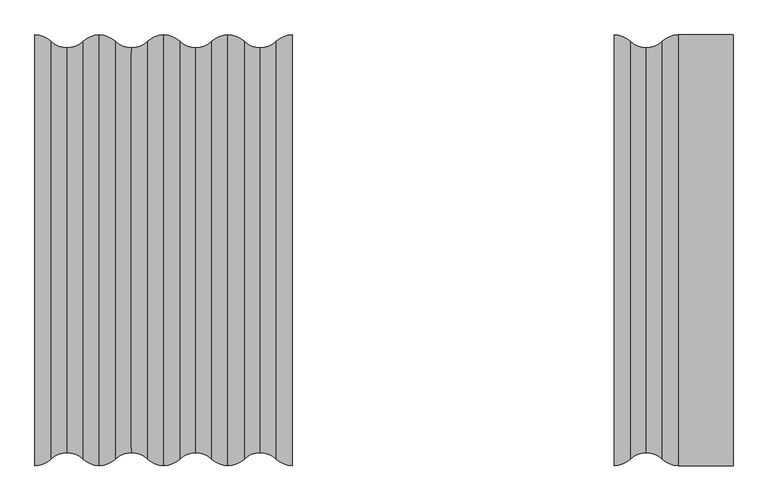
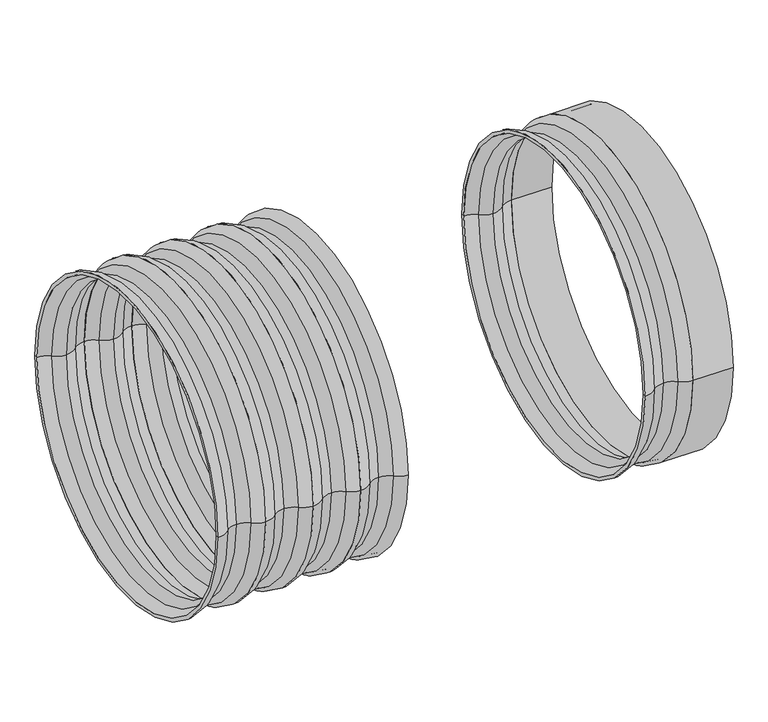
"""IFC4 building model written with IfcOpenShell, lengths in millimetres: pipe fitting geometry, Z_PIF_UN_Q-Bic_Plus_Shaft_Pipe_Wavin_(nested) : PP, RAL8012, ø600mm."""

from ifc_helpers import new_model, si_unit, point, frame, origin, place, context, project, spatial, polyline, circle_curve, ellipse_curve, trimmed, source, transform, mapped, element, save
from ifc_brep_helpers import plane_surface, cylinder_surface, revolved_surface, advanced_brep


def pipe_fitting_905b8aec(model_context):
    return source(origin(), model_context, "Body", "AdvancedBrep", [
        advanced_brep(
        [(300.0, -335.0, 0.0), (300.0, 335.0, 0.0), (325.0, 325.0, 0.0), (325.0, -325.0, 0.0), (300.0, -328.0, 0.0), (300.0, 328.0, 0.0), (325.0, -318.0, 0.0), (325.0, 318.0, 0.0), (350.0, -308.0, 0.0), (350.0, 308.0, 0.0), (375.0, -318.0, 0.0), (375.0, 318.0, 0.0), (400.0, -328.0, 0.0), (400.0, 328.0, 0.0), (400.0, -335.0, 0.0), (400.0, 335.0, 0.0), (375.0, -325.0, 0.0), (375.0, 325.0, 0.0), (350.0, -315.0, 0.0), (350.0, 315.0, 0.0)],
        [
            (0, 1, circle_curve(frame((300.0, 0.0, 0.0), z_axis=(1.0, 0.0, 0.0), x_axis=(0.0, 1.0, 0.0)), 335.0)),
            (1, 2, circle_curve(frame((300.0, 298.75, 0.0), z_axis=(0.0, 0.0, -1.0), x_axis=(1.0, 0.0, 0.0)), 36.25)),
            (2, 3, circle_curve(frame((325.0, 0.0, 0.0), z_axis=(-1.0, 0.0, 0.0), x_axis=(0.0, 1.0, 0.0)), 325.0)),
            (3, 0, circle_curve(frame((300.0, -298.75, 0.0), z_axis=(0.0, 0.0, -1.0), x_axis=(1.0, 0.0, 0.0)), 36.25)),
            (1, 0, circle_curve(frame((300.0, 0.0, 0.0), z_axis=(1.0, 0.0, 0.0), x_axis=(0.0, 1.0, 0.0)), 335.0)),
            (3, 2, circle_curve(frame((325.0, 0.0, 0.0), z_axis=(-1.0, 0.0, 0.0), x_axis=(0.0, 1.0, 0.0)), 325.0)),
            (4, 5, circle_curve(frame((300.0, 0.0, 0.0), z_axis=(1.0, 0.0, 0.0), x_axis=(0.0, 1.0, 0.0)), 328.0)),
            (5, 1),
            (0, 4),
            (5, 4, circle_curve(frame((300.0, 0.0, 0.0), z_axis=(1.0, 0.0, 0.0), x_axis=(0.0, 1.0, 0.0)), 328.0)),
            (6, 7, circle_curve(frame((325.0, 0.0, 0.0), z_axis=(1.0, 0.0, 0.0), x_axis=(0.0, 1.0, 0.0)), 318.0)),
            (7, 5, circle_curve(frame((300.0, 291.75, 0.0), z_axis=(0.0, 0.0, 1.0), x_axis=(1.0, 0.0, 0.0)), 36.25)),
            (4, 6, circle_curve(frame((300.0, -291.75, 0.0), z_axis=(0.0, 0.0, 1.0), x_axis=(1.0, 0.0, 0.0)), 36.25)),
            (7, 6, circle_curve(frame((325.0, 0.0, 0.0), z_axis=(1.0, 0.0, 0.0), x_axis=(0.0, 1.0, 0.0)), 318.0)),
            (8, 9, circle_curve(frame((350.0, 0.0, 0.0), z_axis=(1.0, 0.0, 0.0), x_axis=(0.0, 1.0, 0.0)), 308.0)),
            (9, 7, circle_curve(frame((350.0, 344.25, 0.0), z_axis=(0.0, 0.0, -1.0), x_axis=(1.0, 0.0, 0.0)), 36.25)),
            (6, 8, circle_curve(frame((350.0, -344.25, 0.0), z_axis=(0.0, 0.0, -1.0), x_axis=(1.0, 0.0, 0.0)), 36.25)),
            (9, 8, circle_curve(frame((350.0, 0.0, 0.0), z_axis=(1.0, 0.0, 0.0), x_axis=(0.0, 1.0, 0.0)), 308.0)),
            (10, 11, circle_curve(frame((375.0, 0.0, 0.0), z_axis=(1.0, 0.0, 0.0), x_axis=(0.0, 1.0, 0.0)), 318.0)),
            (11, 9, circle_curve(frame((350.0, 344.25, 0.0), z_axis=(0.0, 0.0, -1.0), x_axis=(1.0, 0.0, 0.0)), 36.25)),
            (8, 10, circle_curve(frame((350.0, -344.25, 0.0), z_axis=(0.0, 0.0, -1.0), x_axis=(1.0, 0.0, 0.0)), 36.25)),
            (11, 10, circle_curve(frame((375.0, 0.0, 0.0), z_axis=(1.0, 0.0, 0.0), x_axis=(0.0, 1.0, 0.0)), 318.0)),
            (12, 13, circle_curve(frame((400.0, 0.0, 0.0), z_axis=(1.0, 0.0, 0.0), x_axis=(0.0, 1.0, 0.0)), 328.0)),
            (13, 11, circle_curve(frame((400.0, 291.75, 0.0), z_axis=(0.0, 0.0, 1.0), x_axis=(1.0, 0.0, 0.0)), 36.25)),
            (10, 12, circle_curve(frame((400.0, -291.75, 0.0), z_axis=(0.0, 0.0, 1.0), x_axis=(1.0, 0.0, 0.0)), 36.25)),
            (13, 12, circle_curve(frame((400.0, 0.0, 0.0), z_axis=(1.0, 0.0, 0.0), x_axis=(0.0, 1.0, 0.0)), 328.0)),
            (14, 15, circle_curve(frame((400.0, 0.0, 0.0), z_axis=(1.0, 0.0, 0.0), x_axis=(0.0, 1.0, 0.0)), 335.0)),
            (15, 13),
            (12, 14),
            (15, 14, circle_curve(frame((400.0, 0.0, 0.0), z_axis=(1.0, 0.0, 0.0), x_axis=(0.0, 1.0, 0.0)), 335.0)),
            (16, 17, circle_curve(frame((375.0, 0.0, 0.0), z_axis=(1.0, 0.0, 0.0), x_axis=(0.0, 1.0, 0.0)), 325.0)),
            (17, 15, circle_curve(frame((400.0, 298.75, 0.0), z_axis=(0.0, 0.0, -1.0), x_axis=(1.0, 0.0, 0.0)), 36.25)),
            (14, 16, circle_curve(frame((400.0, -298.75, 0.0), z_axis=(0.0, 0.0, -1.0), x_axis=(1.0, 0.0, 0.0)), 36.25)),
            (17, 16, circle_curve(frame((375.0, 0.0, 0.0), z_axis=(1.0, 0.0, 0.0), x_axis=(0.0, 1.0, 0.0)), 325.0)),
            (18, 19, circle_curve(frame((350.0, 0.0, 0.0), z_axis=(1.0, 0.0, 0.0), x_axis=(0.0, 1.0, 0.0)), 315.0)),
            (19, 17, circle_curve(frame((350.0, 351.25, 0.0), z_axis=(0.0, 0.0, 1.0), x_axis=(1.0, 0.0, 0.0)), 36.25)),
            (16, 18, circle_curve(frame((350.0, -351.25, 0.0), z_axis=(0.0, 0.0, 1.0), x_axis=(1.0, 0.0, 0.0)), 36.25)),
            (19, 18, circle_curve(frame((350.0, 0.0, 0.0), z_axis=(1.0, 0.0, 0.0), x_axis=(0.0, 1.0, 0.0)), 315.0)),
            (2, 19, circle_curve(frame((350.0, 351.25, 0.0), z_axis=(0.0, 0.0, 1.0), x_axis=(1.0, 0.0, 0.0)), 36.25)),
            (18, 3, circle_curve(frame((350.0, -351.25, 0.0), z_axis=(0.0, 0.0, 1.0), x_axis=(1.0, 0.0, 0.0)), 36.25)),
        ],
        [
            revolved_surface(trimmed(ellipse_curve(frame((300.0, 298.75, 0.0), z_axis=(0.0, 0.0, 1.0), x_axis=(1.0, 0.0, 0.0)), 36.25, 36.25), [point((325.0, 325.0, 0.0))], [point((300.0, 335.0, 0.0))], True, "CARTESIAN"), (250.0, 0.0, 0.0), (-1.0, 0.0, 0.0)),
            plane_surface(frame((300.0, 0.0, 0.0), z_axis=(-1.0, 0.0, 0.0), x_axis=(0.0, 1.0, 0.0))),
            revolved_surface(trimmed(ellipse_curve(frame((300.0, 291.75, 0.0), z_axis=(0.0, 0.0, -1.0), x_axis=(1.0, 0.0, 0.0)), 36.25, 36.25), [point((300.0, 328.0, 0.0))], [point((325.0, 318.0, 0.0))], True, "CARTESIAN"), (250.0, 0.0, 0.0), (-1.0, 0.0, 0.0)),
            revolved_surface(trimmed(ellipse_curve(frame((350.0, 344.25, 0.0), z_axis=(0.0, 0.0, 1.0), x_axis=(1.0, 0.0, 0.0)), 36.25, 36.25), [point((325.0, 318.0, 0.0))], [point((350.0, 308.0, 0.0))], True, "CARTESIAN"), (250.0, 0.0, 0.0), (-1.0, 0.0, 0.0)),
            revolved_surface(trimmed(ellipse_curve(frame((350.0, 344.25, 0.0), z_axis=(0.0, 0.0, 1.0), x_axis=(1.0, 0.0, 0.0)), 36.25, 36.25), [point((350.0, 308.0, 0.0))], [point((375.0, 318.0, 0.0))], True, "CARTESIAN"), (250.0, 0.0, 0.0), (-1.0, 0.0, 0.0)),
            revolved_surface(trimmed(ellipse_curve(frame((400.0, 291.75, 0.0), z_axis=(0.0, 0.0, -1.0), x_axis=(1.0, 0.0, 0.0)), 36.25, 36.25), [point((375.0, 318.0, 0.0))], [point((400.0, 328.0, 0.0))], True, "CARTESIAN"), (250.0, 0.0, 0.0), (-1.0, 0.0, 0.0)),
            plane_surface(frame((400.0, 0.0, 0.0), z_axis=(1.0, 0.0, 0.0), x_axis=(0.0, 1.0, 0.0))),
            revolved_surface(trimmed(ellipse_curve(frame((400.0, 298.75, 0.0), z_axis=(0.0, 0.0, 1.0), x_axis=(1.0, 0.0, 0.0)), 36.25, 36.25), [point((400.0, 335.0, 0.0))], [point((375.0, 325.0, 0.0))], True, "CARTESIAN"), (250.0, 0.0, 0.0), (-1.0, 0.0, 0.0)),
            revolved_surface(trimmed(ellipse_curve(frame((350.0, 351.25, 0.0), z_axis=(0.0, 0.0, -1.0), x_axis=(1.0, 0.0, 0.0)), 36.25, 36.25), [point((375.0, 325.0, 0.0))], [point((350.0, 315.0, 0.0))], True, "CARTESIAN"), (250.0, 0.0, 0.0), (-1.0, 0.0, 0.0)),
            revolved_surface(trimmed(ellipse_curve(frame((350.0, 351.25, 0.0), z_axis=(0.0, 0.0, -1.0), x_axis=(1.0, 0.0, 0.0)), 36.25, 36.25), [point((350.0, 315.0, 0.0))], [point((325.0, 325.0, 0.0))], True, "CARTESIAN"), (250.0, 0.0, 0.0), (-1.0, 0.0, 0.0)),
        ],
        [
            (0, [[1, 2, 3, 4]]),
            (0, [[5, -4, 6, -2]]),
            (1, [[7, 8, -1, 9]]),
            (1, [[10, -9, -5, -8]]),
            (2, [[11, 12, -7, 13]]),
            (2, [[14, -13, -10, -12]]),
            (3, [[15, 16, -11, 17]]),
            (3, [[18, -17, -14, -16]]),
            (4, [[19, 20, -15, 21]]),
            (4, [[22, -21, -18, -20]]),
            (5, [[23, 24, -19, 25]]),
            (5, [[26, -25, -22, -24]]),
            (6, [[27, 28, -23, 29]]),
            (6, [[30, -29, -26, -28]]),
            (7, [[31, 32, -27, 33]]),
            (7, [[34, -33, -30, -32]]),
            (8, [[35, 36, -31, 37]]),
            (8, [[38, -37, -34, -36]]),
            (9, [[-3, 39, -35, 40]]),
            (9, [[-6, -40, -38, -39]]),
        ],
    ),
        advanced_brep(
        [(200.0, -335.0, 0.0), (200.0, 335.0, 0.0), (225.0, 325.0, 0.0), (225.0, -325.0, 0.0), (200.0, -328.0, 0.0), (200.0, 328.0, 0.0), (225.0, -318.0, 0.0), (225.0, 318.0, 0.0), (250.0, -308.0, 0.0), (250.0, 308.0, 0.0), (275.0, -318.0, 0.0), (275.0, 318.0, 0.0), (300.0, -328.0, 0.0), (300.0, 328.0, 0.0), (300.0, -335.0, 0.0), (300.0, 335.0, 0.0), (275.0, -325.0, 0.0), (275.0, 325.0, 0.0), (250.0, -315.0, 0.0), (250.0, 315.0, 0.0)],
        [
            (0, 1, circle_curve(frame((200.0, 0.0, 0.0), z_axis=(1.0, 0.0, 0.0), x_axis=(0.0, 1.0, 0.0)), 335.0)),
            (1, 2, circle_curve(frame((200.0, 298.75, 0.0), z_axis=(0.0, 0.0, -1.0), x_axis=(1.0, 0.0, 0.0)), 36.25)),
            (2, 3, circle_curve(frame((225.0, 0.0, 0.0), z_axis=(-1.0, 0.0, 0.0), x_axis=(0.0, 1.0, 0.0)), 325.0)),
            (3, 0, circle_curve(frame((200.0, -298.75, 0.0), z_axis=(0.0, 0.0, -1.0), x_axis=(1.0, 0.0, 0.0)), 36.25)),
            (1, 0, circle_curve(frame((200.0, 0.0, 0.0), z_axis=(1.0, 0.0, 0.0), x_axis=(0.0, 1.0, 0.0)), 335.0)),
            (3, 2, circle_curve(frame((225.0, 0.0, 0.0), z_axis=(-1.0, 0.0, 0.0), x_axis=(0.0, 1.0, 0.0)), 325.0)),
            (4, 5, circle_curve(frame((200.0, 0.0, 0.0), z_axis=(1.0, 0.0, 0.0), x_axis=(0.0, 1.0, 0.0)), 328.0)),
            (5, 1),
            (0, 4),
            (5, 4, circle_curve(frame((200.0, 0.0, 0.0), z_axis=(1.0, 0.0, 0.0), x_axis=(0.0, 1.0, 0.0)), 328.0)),
            (6, 7, circle_curve(frame((225.0, 0.0, 0.0), z_axis=(1.0, 0.0, 0.0), x_axis=(0.0, 1.0, 0.0)), 318.0)),
            (7, 5, circle_curve(frame((200.0, 291.75, 0.0), z_axis=(0.0, 0.0, 1.0), x_axis=(1.0, 0.0, 0.0)), 36.25)),
            (4, 6, circle_curve(frame((200.0, -291.75, 0.0), z_axis=(0.0, 0.0, 1.0), x_axis=(1.0, 0.0, 0.0)), 36.25)),
            (7, 6, circle_curve(frame((225.0, 0.0, 0.0), z_axis=(1.0, 0.0, 0.0), x_axis=(0.0, 1.0, 0.0)), 318.0)),
            (8, 9, circle_curve(frame((250.0, 0.0, 0.0), z_axis=(1.0, 0.0, 0.0), x_axis=(0.0, 1.0, 0.0)), 308.0)),
            (9, 7, circle_curve(frame((250.0, 344.25, 0.0), z_axis=(0.0, 0.0, -1.0), x_axis=(1.0, 0.0, 0.0)), 36.25)),
            (6, 8, circle_curve(frame((250.0, -344.25, 0.0), z_axis=(0.0, 0.0, -1.0), x_axis=(1.0, 0.0, 0.0)), 36.25)),
            (9, 8, circle_curve(frame((250.0, 0.0, 0.0), z_axis=(1.0, 0.0, 0.0), x_axis=(0.0, 1.0, 0.0)), 308.0)),
            (10, 11, circle_curve(frame((275.0, 0.0, 0.0), z_axis=(1.0, 0.0, 0.0), x_axis=(0.0, 1.0, 0.0)), 318.0)),
            (11, 9, circle_curve(frame((250.0, 344.25, 0.0), z_axis=(0.0, 0.0, -1.0), x_axis=(1.0, 0.0, 0.0)), 36.25)),
            (8, 10, circle_curve(frame((250.0, -344.25, 0.0), z_axis=(0.0, 0.0, -1.0), x_axis=(1.0, 0.0, 0.0)), 36.25)),
            (11, 10, circle_curve(frame((275.0, 0.0, 0.0), z_axis=(1.0, 0.0, 0.0), x_axis=(0.0, 1.0, 0.0)), 318.0)),
            (12, 13, circle_curve(frame((300.0, 0.0, 0.0), z_axis=(1.0, 0.0, 0.0), x_axis=(0.0, 1.0, 0.0)), 328.0)),
            (13, 11, circle_curve(frame((300.0, 291.75, 0.0), z_axis=(0.0, 0.0, 1.0), x_axis=(1.0, 0.0, 0.0)), 36.25)),
            (10, 12, circle_curve(frame((300.0, -291.75, 0.0), z_axis=(0.0, 0.0, 1.0), x_axis=(1.0, 0.0, 0.0)), 36.25)),
            (13, 12, circle_curve(frame((300.0, 0.0, 0.0), z_axis=(1.0, 0.0, 0.0), x_axis=(0.0, 1.0, 0.0)), 328.0)),
            (14, 15, circle_curve(frame((300.0, 0.0, 0.0), z_axis=(1.0, 0.0, 0.0), x_axis=(0.0, 1.0, 0.0)), 335.0)),
            (15, 13),
            (12, 14),
            (15, 14, circle_curve(frame((300.0, 0.0, 0.0), z_axis=(1.0, 0.0, 0.0), x_axis=(0.0, 1.0, 0.0)), 335.0)),
            (16, 17, circle_curve(frame((275.0, 0.0, 0.0), z_axis=(1.0, 0.0, 0.0), x_axis=(0.0, 1.0, 0.0)), 325.0)),
            (17, 15, circle_curve(frame((300.0, 298.75, 0.0), z_axis=(0.0, 0.0, -1.0), x_axis=(1.0, 0.0, 0.0)), 36.25)),
            (14, 16, circle_curve(frame((300.0, -298.75, 0.0), z_axis=(0.0, 0.0, -1.0), x_axis=(1.0, 0.0, 0.0)), 36.25)),
            (17, 16, circle_curve(frame((275.0, 0.0, 0.0), z_axis=(1.0, 0.0, 0.0), x_axis=(0.0, 1.0, 0.0)), 325.0)),
            (18, 19, circle_curve(frame((250.0, 0.0, 0.0), z_axis=(1.0, 0.0, 0.0), x_axis=(0.0, 1.0, 0.0)), 315.0)),
            (19, 17, circle_curve(frame((250.0, 351.25, 0.0), z_axis=(0.0, 0.0, 1.0), x_axis=(1.0, 0.0, 0.0)), 36.25)),
            (16, 18, circle_curve(frame((250.0, -351.25, 0.0), z_axis=(0.0, 0.0, 1.0), x_axis=(1.0, 0.0, 0.0)), 36.25)),
            (19, 18, circle_curve(frame((250.0, 0.0, 0.0), z_axis=(1.0, 0.0, 0.0), x_axis=(0.0, 1.0, 0.0)), 315.0)),
            (2, 19, circle_curve(frame((250.0, 351.25, 0.0), z_axis=(0.0, 0.0, 1.0), x_axis=(1.0, 0.0, 0.0)), 36.25)),
            (18, 3, circle_curve(frame((250.0, -351.25, 0.0), z_axis=(0.0, 0.0, 1.0), x_axis=(1.0, 0.0, 0.0)), 36.25)),
        ],
        [
            revolved_surface(trimmed(ellipse_curve(frame((200.0, 298.75, 0.0), z_axis=(0.0, 0.0, 1.0), x_axis=(1.0, 0.0, 0.0)), 36.25, 36.25), [point((225.0, 325.0, 0.0))], [point((200.0, 335.0, 0.0))], True, "CARTESIAN"), (150.0, 0.0, 0.0), (-1.0, 0.0, 0.0)),
            plane_surface(frame((200.0, 0.0, 0.0), z_axis=(-1.0, 0.0, 0.0), x_axis=(0.0, 1.0, 0.0))),
            revolved_surface(trimmed(ellipse_curve(frame((200.0, 291.75, 0.0), z_axis=(0.0, 0.0, -1.0), x_axis=(1.0, 0.0, 0.0)), 36.25, 36.25), [point((200.0, 328.0, 0.0))], [point((225.0, 318.0, 0.0))], True, "CARTESIAN"), (150.0, 0.0, 0.0), (-1.0, 0.0, 0.0)),
            revolved_surface(trimmed(ellipse_curve(frame((250.0, 344.25, 0.0), z_axis=(0.0, 0.0, 1.0), x_axis=(1.0, 0.0, 0.0)), 36.25, 36.25), [point((225.0, 318.0, 0.0))], [point((250.0, 308.0, 0.0))], True, "CARTESIAN"), (150.0, 0.0, 0.0), (-1.0, 0.0, 0.0)),
            revolved_surface(trimmed(ellipse_curve(frame((250.0, 344.25, 0.0), z_axis=(0.0, 0.0, 1.0), x_axis=(1.0, 0.0, 0.0)), 36.25, 36.25), [point((250.0, 308.0, 0.0))], [point((275.0, 318.0, 0.0))], True, "CARTESIAN"), (150.0, 0.0, 0.0), (-1.0, 0.0, 0.0)),
            revolved_surface(trimmed(ellipse_curve(frame((300.0, 291.75, 0.0), z_axis=(0.0, 0.0, -1.0), x_axis=(1.0, 0.0, 0.0)), 36.25, 36.25), [point((275.0, 318.0, 0.0))], [point((300.0, 328.0, 0.0))], True, "CARTESIAN"), (150.0, 0.0, 0.0), (-1.0, 0.0, 0.0)),
            plane_surface(frame((300.0, 0.0, 0.0), z_axis=(1.0, 0.0, 0.0), x_axis=(0.0, 1.0, 0.0))),
            revolved_surface(trimmed(ellipse_curve(frame((300.0, 298.75, 0.0), z_axis=(0.0, 0.0, 1.0), x_axis=(1.0, 0.0, 0.0)), 36.25, 36.25), [point((300.0, 335.0, 0.0))], [point((275.0, 325.0, 0.0))], True, "CARTESIAN"), (150.0, 0.0, 0.0), (-1.0, 0.0, 0.0)),
            revolved_surface(trimmed(ellipse_curve(frame((250.0, 351.25, 0.0), z_axis=(0.0, 0.0, -1.0), x_axis=(1.0, 0.0, 0.0)), 36.25, 36.25), [point((275.0, 325.0, 0.0))], [point((250.0, 315.0, 0.0))], True, "CARTESIAN"), (150.0, 0.0, 0.0), (-1.0, 0.0, 0.0)),
            revolved_surface(trimmed(ellipse_curve(frame((250.0, 351.25, 0.0), z_axis=(0.0, 0.0, -1.0), x_axis=(1.0, 0.0, 0.0)), 36.25, 36.25), [point((250.0, 315.0, 0.0))], [point((225.0, 325.0, 0.0))], True, "CARTESIAN"), (150.0, 0.0, 0.0), (-1.0, 0.0, 0.0)),
        ],
        [
            (0, [[1, 2, 3, 4]]),
            (0, [[5, -4, 6, -2]]),
            (1, [[7, 8, -1, 9]]),
            (1, [[10, -9, -5, -8]]),
            (2, [[11, 12, -7, 13]]),
            (2, [[14, -13, -10, -12]]),
            (3, [[15, 16, -11, 17]]),
            (3, [[18, -17, -14, -16]]),
            (4, [[19, 20, -15, 21]]),
            (4, [[22, -21, -18, -20]]),
            (5, [[23, 24, -19, 25]]),
            (5, [[26, -25, -22, -24]]),
            (6, [[27, 28, -23, 29]]),
            (6, [[30, -29, -26, -28]]),
            (7, [[31, 32, -27, 33]]),
            (7, [[34, -33, -30, -32]]),
            (8, [[35, 36, -31, 37]]),
            (8, [[38, -37, -34, -36]]),
            (9, [[-3, 39, -35, 40]]),
            (9, [[-6, -40, -38, -39]]),
        ],
    ),
        advanced_brep(
        [(100.0, -335.0, 0.0), (100.0, 335.0, 0.0), (125.0, 325.0, 0.0), (125.0, -325.0, 0.0), (100.0, -328.0, 0.0), (100.0, 328.0, 0.0), (125.0, -318.0, 0.0), (125.0, 318.0, 0.0), (150.0, -308.0, 0.0), (150.0, 308.0, 0.0), (175.0, -318.0, 0.0), (175.0, 318.0, 0.0), (200.0, -328.0, 0.0), (200.0, 328.0, 0.0), (200.0, -335.0, 0.0), (200.0, 335.0, 0.0), (175.0, -325.0, 0.0), (175.0, 325.0, 0.0), (150.0, -315.0, 0.0), (150.0, 315.0, 0.0)],
        [
            (0, 1, circle_curve(frame((100.0, 0.0, 0.0), z_axis=(1.0, 0.0, 0.0), x_axis=(0.0, 1.0, 0.0)), 335.0)),
            (1, 2, circle_curve(frame((100.0, 298.75, 0.0), z_axis=(0.0, 0.0, -1.0), x_axis=(1.0, 0.0, 0.0)), 36.25)),
            (2, 3, circle_curve(frame((125.0, 0.0, 0.0), z_axis=(-1.0, 0.0, 0.0), x_axis=(0.0, 1.0, 0.0)), 325.0)),
            (3, 0, circle_curve(frame((100.0, -298.75, 0.0), z_axis=(0.0, 0.0, -1.0), x_axis=(1.0, 0.0, 0.0)), 36.25)),
            (1, 0, circle_curve(frame((100.0, 0.0, 0.0), z_axis=(1.0, 0.0, 0.0), x_axis=(0.0, 1.0, 0.0)), 335.0)),
            (3, 2, circle_curve(frame((125.0, 0.0, 0.0), z_axis=(-1.0, 0.0, 0.0), x_axis=(0.0, 1.0, 0.0)), 325.0)),
            (4, 5, circle_curve(frame((100.0, 0.0, 0.0), z_axis=(1.0, 0.0, 0.0), x_axis=(0.0, 1.0, 0.0)), 328.0)),
            (5, 1),
            (0, 4),
            (5, 4, circle_curve(frame((100.0, 0.0, 0.0), z_axis=(1.0, 0.0, 0.0), x_axis=(0.0, 1.0, 0.0)), 328.0)),
            (6, 7, circle_curve(frame((125.0, 0.0, 0.0), z_axis=(1.0, 0.0, 0.0), x_axis=(0.0, 1.0, 0.0)), 318.0)),
            (7, 5, circle_curve(frame((100.0, 291.75, 0.0), z_axis=(0.0, 0.0, 1.0), x_axis=(1.0, 0.0, 0.0)), 36.25)),
            (4, 6, circle_curve(frame((100.0, -291.75, 0.0), z_axis=(0.0, 0.0, 1.0), x_axis=(1.0, 0.0, 0.0)), 36.25)),
            (7, 6, circle_curve(frame((125.0, 0.0, 0.0), z_axis=(1.0, 0.0, 0.0), x_axis=(0.0, 1.0, 0.0)), 318.0)),
            (8, 9, circle_curve(frame((150.0, 0.0, 0.0), z_axis=(1.0, 0.0, 0.0), x_axis=(0.0, 1.0, 0.0)), 308.0)),
            (9, 7, circle_curve(frame((150.0, 344.25, 0.0), z_axis=(0.0, 0.0, -1.0), x_axis=(1.0, 0.0, 0.0)), 36.25)),
            (6, 8, circle_curve(frame((150.0, -344.25, 0.0), z_axis=(0.0, 0.0, -1.0), x_axis=(1.0, 0.0, 0.0)), 36.25)),
            (9, 8, circle_curve(frame((150.0, 0.0, 0.0), z_axis=(1.0, 0.0, 0.0), x_axis=(0.0, 1.0, 0.0)), 308.0)),
            (10, 11, circle_curve(frame((175.0, 0.0, 0.0), z_axis=(1.0, 0.0, 0.0), x_axis=(0.0, 1.0, 0.0)), 318.0)),
            (11, 9, circle_curve(frame((150.0, 344.25, 0.0), z_axis=(0.0, 0.0, -1.0), x_axis=(1.0, 0.0, 0.0)), 36.25)),
            (8, 10, circle_curve(frame((150.0, -344.25, 0.0), z_axis=(0.0, 0.0, -1.0), x_axis=(1.0, 0.0, 0.0)), 36.25)),
            (11, 10, circle_curve(frame((175.0, 0.0, 0.0), z_axis=(1.0, 0.0, 0.0), x_axis=(0.0, 1.0, 0.0)), 318.0)),
            (12, 13, circle_curve(frame((200.0, 0.0, 0.0), z_axis=(1.0, 0.0, 0.0), x_axis=(0.0, 1.0, 0.0)), 328.0)),
            (13, 11, circle_curve(frame((200.0, 291.75, 0.0), z_axis=(0.0, 0.0, 1.0), x_axis=(1.0, 0.0, 0.0)), 36.25)),
            (10, 12, circle_curve(frame((200.0, -291.75, 0.0), z_axis=(0.0, 0.0, 1.0), x_axis=(1.0, 0.0, 0.0)), 36.25)),
            (13, 12, circle_curve(frame((200.0, 0.0, 0.0), z_axis=(1.0, 0.0, 0.0), x_axis=(0.0, 1.0, 0.0)), 328.0)),
            (14, 15, circle_curve(frame((200.0, 0.0, 0.0), z_axis=(1.0, 0.0, 0.0), x_axis=(0.0, 1.0, 0.0)), 335.0)),
            (15, 13),
            (12, 14),
            (15, 14, circle_curve(frame((200.0, 0.0, 0.0), z_axis=(1.0, 0.0, 0.0), x_axis=(0.0, 1.0, 0.0)), 335.0)),
            (16, 17, circle_curve(frame((175.0, 0.0, 0.0), z_axis=(1.0, 0.0, 0.0), x_axis=(0.0, 1.0, 0.0)), 325.0)),
            (17, 15, circle_curve(frame((200.0, 298.75, 0.0), z_axis=(0.0, 0.0, -1.0), x_axis=(1.0, 0.0, 0.0)), 36.25)),
            (14, 16, circle_curve(frame((200.0, -298.75, 0.0), z_axis=(0.0, 0.0, -1.0), x_axis=(1.0, 0.0, 0.0)), 36.25)),
            (17, 16, circle_curve(frame((175.0, 0.0, 0.0), z_axis=(1.0, 0.0, 0.0), x_axis=(0.0, 1.0, 0.0)), 325.0)),
            (18, 19, circle_curve(frame((150.0, 0.0, 0.0), z_axis=(1.0, 0.0, 0.0), x_axis=(0.0, 1.0, 0.0)), 315.0)),
            (19, 17, circle_curve(frame((150.0, 351.25, 0.0), z_axis=(0.0, 0.0, 1.0), x_axis=(1.0, 0.0, 0.0)), 36.25)),
            (16, 18, circle_curve(frame((150.0, -351.25, 0.0), z_axis=(0.0, 0.0, 1.0), x_axis=(1.0, 0.0, 0.0)), 36.25)),
            (19, 18, circle_curve(frame((150.0, 0.0, 0.0), z_axis=(1.0, 0.0, 0.0), x_axis=(0.0, 1.0, 0.0)), 315.0)),
            (2, 19, circle_curve(frame((150.0, 351.25, 0.0), z_axis=(0.0, 0.0, 1.0), x_axis=(1.0, 0.0, 0.0)), 36.25)),
            (18, 3, circle_curve(frame((150.0, -351.25, 0.0), z_axis=(0.0, 0.0, 1.0), x_axis=(1.0, 0.0, 0.0)), 36.25)),
        ],
        [
            revolved_surface(trimmed(ellipse_curve(frame((100.0, 298.75, 0.0), z_axis=(0.0, 0.0, 1.0), x_axis=(1.0, 0.0, 0.0)), 36.25, 36.25), [point((125.0, 325.0, 0.0))], [point((100.0, 335.0, 0.0))], True, "CARTESIAN"), (50.0, 0.0, 0.0), (-1.0, 0.0, 0.0)),
            plane_surface(frame((100.0, 0.0, 0.0), z_axis=(-1.0, 0.0, 0.0), x_axis=(0.0, 1.0, 0.0))),
            revolved_surface(trimmed(ellipse_curve(frame((100.0, 291.75, 0.0), z_axis=(0.0, 0.0, -1.0), x_axis=(1.0, 0.0, 0.0)), 36.25, 36.25), [point((100.0, 328.0, 0.0))], [point((125.0, 318.0, 0.0))], True, "CARTESIAN"), (50.0, 0.0, 0.0), (-1.0, 0.0, 0.0)),
            revolved_surface(trimmed(ellipse_curve(frame((150.0, 344.25, 0.0), z_axis=(0.0, 0.0, 1.0), x_axis=(1.0, 0.0, 0.0)), 36.25, 36.25), [point((125.0, 318.0, 0.0))], [point((150.0, 308.0, 0.0))], True, "CARTESIAN"), (50.0, 0.0, 0.0), (-1.0, 0.0, 0.0)),
            revolved_surface(trimmed(ellipse_curve(frame((150.0, 344.25, 0.0), z_axis=(0.0, 0.0, 1.0), x_axis=(1.0, 0.0, 0.0)), 36.25, 36.25), [point((150.0, 308.0, 0.0))], [point((175.0, 318.0, 0.0))], True, "CARTESIAN"), (50.0, 0.0, 0.0), (-1.0, 0.0, 0.0)),
            revolved_surface(trimmed(ellipse_curve(frame((200.0, 291.75, 0.0), z_axis=(0.0, 0.0, -1.0), x_axis=(1.0, 0.0, 0.0)), 36.25, 36.25), [point((175.0, 318.0, 0.0))], [point((200.0, 328.0, 0.0))], True, "CARTESIAN"), (50.0, 0.0, 0.0), (-1.0, 0.0, 0.0)),
            plane_surface(frame((200.0, 0.0, 0.0), z_axis=(1.0, 0.0, 0.0), x_axis=(0.0, 1.0, 0.0))),
            revolved_surface(trimmed(ellipse_curve(frame((200.0, 298.75, 0.0), z_axis=(0.0, 0.0, 1.0), x_axis=(1.0, 0.0, 0.0)), 36.25, 36.25), [point((200.0, 335.0, 0.0))], [point((175.0, 325.0, 0.0))], True, "CARTESIAN"), (50.0, 0.0, 0.0), (-1.0, 0.0, 0.0)),
            revolved_surface(trimmed(ellipse_curve(frame((150.0, 351.25, 0.0), z_axis=(0.0, 0.0, -1.0), x_axis=(1.0, 0.0, 0.0)), 36.25, 36.25), [point((175.0, 325.0, 0.0))], [point((150.0, 315.0, 0.0))], True, "CARTESIAN"), (50.0, 0.0, 0.0), (-1.0, 0.0, 0.0)),
            revolved_surface(trimmed(ellipse_curve(frame((150.0, 351.25, 0.0), z_axis=(0.0, 0.0, -1.0), x_axis=(1.0, 0.0, 0.0)), 36.25, 36.25), [point((150.0, 315.0, 0.0))], [point((125.0, 325.0, 0.0))], True, "CARTESIAN"), (50.0, 0.0, 0.0), (-1.0, 0.0, 0.0)),
        ],
        [
            (0, [[1, 2, 3, 4]]),
            (0, [[5, -4, 6, -2]]),
            (1, [[7, 8, -1, 9]]),
            (1, [[10, -9, -5, -8]]),
            (2, [[11, 12, -7, 13]]),
            (2, [[14, -13, -10, -12]]),
            (3, [[15, 16, -11, 17]]),
            (3, [[18, -17, -14, -16]]),
            (4, [[19, 20, -15, 21]]),
            (4, [[22, -21, -18, -20]]),
            (5, [[23, 24, -19, 25]]),
            (5, [[26, -25, -22, -24]]),
            (6, [[27, 28, -23, 29]]),
            (6, [[30, -29, -26, -28]]),
            (7, [[31, 32, -27, 33]]),
            (7, [[34, -33, -30, -32]]),
            (8, [[35, 36, -31, 37]]),
            (8, [[38, -37, -34, -36]]),
            (9, [[-3, 39, -35, 40]]),
            (9, [[-6, -40, -38, -39]]),
        ],
    ),
        advanced_brep(
        [(900.0, -335.0, 0.0), (900.0, 335.0, 0.0), (925.0, 325.0, 0.0), (925.0, -325.0, 0.0), (900.0, -328.0, 0.0), (900.0, 328.0, 0.0), (925.0, -318.0, 0.0), (925.0, 318.0, 0.0), (950.0, -308.0, 0.0), (950.0, 308.0, 0.0), (975.0, -318.0, 0.0), (975.0, 318.0, 0.0), (1000.0, -328.0, 0.0), (1000.0, 328.0, 0.0), (1000.0, -335.0, 0.0), (1000.0, 335.0, 0.0), (975.0, -325.0, 0.0), (975.0, 325.0, 0.0), (950.0, -315.0, 0.0), (950.0, 315.0, 0.0)],
        [
            (0, 1, circle_curve(frame((900.0, 0.0, 0.0), z_axis=(1.0, 0.0, 0.0), x_axis=(0.0, 1.0, 0.0)), 335.0)),
            (1, 2, circle_curve(frame((900.0, 298.75, 0.0), z_axis=(0.0, 0.0, -1.0), x_axis=(1.0, 0.0, 0.0)), 36.25)),
            (2, 3, circle_curve(frame((925.0, 0.0, 0.0), z_axis=(-1.0, 0.0, 0.0), x_axis=(0.0, 1.0, 0.0)), 325.0)),
            (3, 0, circle_curve(frame((900.0, -298.75, 0.0), z_axis=(0.0, 0.0, -1.0), x_axis=(1.0, 0.0, 0.0)), 36.25)),
            (1, 0, circle_curve(frame((900.0, 0.0, 0.0), z_axis=(1.0, 0.0, 0.0), x_axis=(0.0, 1.0, 0.0)), 335.0)),
            (3, 2, circle_curve(frame((925.0, 0.0, 0.0), z_axis=(-1.0, 0.0, 0.0), x_axis=(0.0, 1.0, 0.0)), 325.0)),
            (4, 5, circle_curve(frame((900.0, 0.0, 0.0), z_axis=(1.0, 0.0, 0.0), x_axis=(0.0, 1.0, 0.0)), 328.0)),
            (5, 1),
            (0, 4),
            (5, 4, circle_curve(frame((900.0, 0.0, 0.0), z_axis=(1.0, 0.0, 0.0), x_axis=(0.0, 1.0, 0.0)), 328.0)),
            (6, 7, circle_curve(frame((925.0, 0.0, 0.0), z_axis=(1.0, 0.0, 0.0), x_axis=(0.0, 1.0, 0.0)), 318.0)),
            (7, 5, circle_curve(frame((900.0, 291.75, 0.0), z_axis=(0.0, 0.0, 1.0), x_axis=(1.0, 0.0, 0.0)), 36.25)),
            (4, 6, circle_curve(frame((900.0, -291.75, 0.0), z_axis=(0.0, 0.0, 1.0), x_axis=(1.0, 0.0, 0.0)), 36.25)),
            (7, 6, circle_curve(frame((925.0, 0.0, 0.0), z_axis=(1.0, 0.0, 0.0), x_axis=(0.0, 1.0, 0.0)), 318.0)),
            (8, 9, circle_curve(frame((950.0, 0.0, 0.0), z_axis=(1.0, 0.0, 0.0), x_axis=(0.0, 1.0, 0.0)), 308.0)),
            (9, 7, circle_curve(frame((950.0, 344.25, 0.0), z_axis=(0.0, 0.0, -1.0), x_axis=(1.0, 0.0, 0.0)), 36.25)),
            (6, 8, circle_curve(frame((950.0, -344.25, 0.0), z_axis=(0.0, 0.0, -1.0), x_axis=(1.0, 0.0, 0.0)), 36.25)),
            (9, 8, circle_curve(frame((950.0, 0.0, 0.0), z_axis=(1.0, 0.0, 0.0), x_axis=(0.0, 1.0, 0.0)), 308.0)),
            (10, 11, circle_curve(frame((975.0, 0.0, 0.0), z_axis=(1.0, 0.0, 0.0), x_axis=(0.0, 1.0, 0.0)), 318.0)),
            (11, 9, circle_curve(frame((950.0, 344.25, 0.0), z_axis=(0.0, 0.0, -1.0), x_axis=(1.0, 0.0, 0.0)), 36.25)),
            (8, 10, circle_curve(frame((950.0, -344.25, 0.0), z_axis=(0.0, 0.0, -1.0), x_axis=(1.0, 0.0, 0.0)), 36.25)),
            (11, 10, circle_curve(frame((975.0, 0.0, 0.0), z_axis=(1.0, 0.0, 0.0), x_axis=(0.0, 1.0, 0.0)), 318.0)),
            (12, 13, circle_curve(frame((1000.0, 0.0, 0.0), z_axis=(1.0, 0.0, 0.0), x_axis=(0.0, 1.0, 0.0)), 328.0)),
            (13, 11, circle_curve(frame((1000.0, 291.75, 0.0), z_axis=(0.0, 0.0, 1.0), x_axis=(1.0, 0.0, 0.0)), 36.25)),
            (10, 12, circle_curve(frame((1000.0, -291.75, 0.0), z_axis=(0.0, 0.0, 1.0), x_axis=(1.0, 0.0, 0.0)), 36.25)),
            (13, 12, circle_curve(frame((1000.0, 0.0, 0.0), z_axis=(1.0, 0.0, 0.0), x_axis=(0.0, 1.0, 0.0)), 328.0)),
            (14, 15, circle_curve(frame((1000.0, 0.0, 0.0), z_axis=(1.0, 0.0, 0.0), x_axis=(0.0, 1.0, 0.0)), 335.0)),
            (15, 13),
            (12, 14),
            (15, 14, circle_curve(frame((1000.0, 0.0, 0.0), z_axis=(1.0, 0.0, 0.0), x_axis=(0.0, 1.0, 0.0)), 335.0)),
            (16, 17, circle_curve(frame((975.0, 0.0, 0.0), z_axis=(1.0, 0.0, 0.0), x_axis=(0.0, 1.0, 0.0)), 325.0)),
            (17, 15, circle_curve(frame((1000.0, 298.75, 0.0), z_axis=(0.0, 0.0, -1.0), x_axis=(1.0, 0.0, 0.0)), 36.25)),
            (14, 16, circle_curve(frame((1000.0, -298.75, 0.0), z_axis=(0.0, 0.0, -1.0), x_axis=(1.0, 0.0, 0.0)), 36.25)),
            (17, 16, circle_curve(frame((975.0, 0.0, 0.0), z_axis=(1.0, 0.0, 0.0), x_axis=(0.0, 1.0, 0.0)), 325.0)),
            (18, 19, circle_curve(frame((950.0, 0.0, 0.0), z_axis=(1.0, 0.0, 0.0), x_axis=(0.0, 1.0, 0.0)), 315.0)),
            (19, 17, circle_curve(frame((950.0, 351.25, 0.0), z_axis=(0.0, 0.0, 1.0), x_axis=(1.0, 0.0, 0.0)), 36.25)),
            (16, 18, circle_curve(frame((950.0, -351.25, 0.0), z_axis=(0.0, 0.0, 1.0), x_axis=(1.0, 0.0, 0.0)), 36.25)),
            (19, 18, circle_curve(frame((950.0, 0.0, 0.0), z_axis=(1.0, 0.0, 0.0), x_axis=(0.0, 1.0, 0.0)), 315.0)),
            (2, 19, circle_curve(frame((950.0, 351.25, 0.0), z_axis=(0.0, 0.0, 1.0), x_axis=(1.0, 0.0, 0.0)), 36.25)),
            (18, 3, circle_curve(frame((950.0, -351.25, 0.0), z_axis=(0.0, 0.0, 1.0), x_axis=(1.0, 0.0, 0.0)), 36.25)),
        ],
        [
            revolved_surface(trimmed(ellipse_curve(frame((900.0, 298.75, 0.0), z_axis=(0.0, 0.0, 1.0), x_axis=(1.0, 0.0, 0.0)), 36.25, 36.25), [point((925.0, 325.0, 0.0))], [point((900.0, 335.0, 0.0))], True, "CARTESIAN"), (850.0, 0.0, 0.0), (-1.0, 0.0, 0.0)),
            plane_surface(frame((900.0, 0.0, 0.0), z_axis=(-1.0, 0.0, 0.0), x_axis=(0.0, 1.0, 0.0))),
            revolved_surface(trimmed(ellipse_curve(frame((900.0, 291.75, 0.0), z_axis=(0.0, 0.0, -1.0), x_axis=(1.0, 0.0, 0.0)), 36.25, 36.25), [point((900.0, 328.0, 0.0))], [point((925.0, 318.0, 0.0))], True, "CARTESIAN"), (850.0, 0.0, 0.0), (-1.0, 0.0, 0.0)),
            revolved_surface(trimmed(ellipse_curve(frame((950.0, 344.25, 0.0), z_axis=(0.0, 0.0, 1.0), x_axis=(1.0, 0.0, 0.0)), 36.25, 36.25), [point((925.0, 318.0, 0.0))], [point((950.0, 308.0, 0.0))], True, "CARTESIAN"), (850.0, 0.0, 0.0), (-1.0, 0.0, 0.0)),
            revolved_surface(trimmed(ellipse_curve(frame((950.0, 344.25, 0.0), z_axis=(0.0, 0.0, 1.0), x_axis=(1.0, 0.0, 0.0)), 36.25, 36.25), [point((950.0, 308.0, 0.0))], [point((975.0, 318.0, 0.0))], True, "CARTESIAN"), (850.0, 0.0, 0.0), (-1.0, 0.0, 0.0)),
            revolved_surface(trimmed(ellipse_curve(frame((1000.0, 291.75, 0.0), z_axis=(0.0, 0.0, -1.0), x_axis=(1.0, 0.0, 0.0)), 36.25, 36.25), [point((975.0, 318.0, 0.0))], [point((1000.0, 328.0, 0.0))], True, "CARTESIAN"), (850.0, 0.0, 0.0), (-1.0, 0.0, 0.0)),
            plane_surface(frame((1000.0, 0.0, 0.0), z_axis=(1.0, 0.0, 0.0), x_axis=(0.0, 1.0, 0.0))),
            revolved_surface(trimmed(ellipse_curve(frame((1000.0, 298.75, 0.0), z_axis=(0.0, 0.0, 1.0), x_axis=(1.0, 0.0, 0.0)), 36.25, 36.25), [point((1000.0, 335.0, 0.0))], [point((975.0, 325.0, 0.0))], True, "CARTESIAN"), (850.0, 0.0, 0.0), (-1.0, 0.0, 0.0)),
            revolved_surface(trimmed(ellipse_curve(frame((950.0, 351.25, 0.0), z_axis=(0.0, 0.0, -1.0), x_axis=(1.0, 0.0, 0.0)), 36.25, 36.25), [point((975.0, 325.0, 0.0))], [point((950.0, 315.0, 0.0))], True, "CARTESIAN"), (850.0, 0.0, 0.0), (-1.0, 0.0, 0.0)),
            revolved_surface(trimmed(ellipse_curve(frame((950.0, 351.25, 0.0), z_axis=(0.0, 0.0, -1.0), x_axis=(1.0, 0.0, 0.0)), 36.25, 36.25), [point((950.0, 315.0, 0.0))], [point((925.0, 325.0, 0.0))], True, "CARTESIAN"), (850.0, 0.0, 0.0), (-1.0, 0.0, 0.0)),
        ],
        [
            (0, [[1, 2, 3, 4]]),
            (0, [[5, -4, 6, -2]]),
            (1, [[7, 8, -1, 9]]),
            (1, [[10, -9, -5, -8]]),
            (2, [[11, 12, -7, 13]]),
            (2, [[14, -13, -10, -12]]),
            (3, [[15, 16, -11, 17]]),
            (3, [[18, -17, -14, -16]]),
            (4, [[19, 20, -15, 21]]),
            (4, [[22, -21, -18, -20]]),
            (5, [[23, 24, -19, 25]]),
            (5, [[26, -25, -22, -24]]),
            (6, [[27, 28, -23, 29]]),
            (6, [[30, -29, -26, -28]]),
            (7, [[31, 32, -27, 33]]),
            (7, [[34, -33, -30, -32]]),
            (8, [[35, 36, -31, 37]]),
            (8, [[38, -37, -34, -36]]),
            (9, [[-3, 39, -35, 40]]),
            (9, [[-6, -40, -38, -39]]),
        ],
    ),
        advanced_brep(
        [(0.0, -335.0, 0.0), (0.0, 335.0, 0.0), (25.0, 325.0, 0.0), (25.0, -325.0, 0.0), (0.0, -328.0, 0.0), (0.0, 328.0, 0.0), (25.0, -318.0, 0.0), (25.0, 318.0, 0.0), (50.0, -308.0, 0.0), (50.0, 308.0, 0.0), (75.0, -318.0, 0.0), (75.0, 318.0, 0.0), (100.0, -328.0, 0.0), (100.0, 328.0, 0.0), (100.0, -335.0, 0.0), (100.0, 335.0, 0.0), (75.0, -325.0, 0.0), (75.0, 325.0, 0.0), (50.0, -315.0, 0.0), (50.0, 315.0, 0.0)],
        [
            (0, 1, circle_curve(frame((0.0, 0.0, 0.0), z_axis=(1.0, 0.0, 0.0), x_axis=(0.0, 1.0, 0.0)), 335.0)),
            (1, 2, circle_curve(frame((0.0, 298.75, 0.0), z_axis=(0.0, 0.0, -1.0), x_axis=(1.0, 0.0, 0.0)), 36.25)),
            (2, 3, circle_curve(frame((25.0, 0.0, 0.0), z_axis=(-1.0, 0.0, 0.0), x_axis=(0.0, 1.0, 0.0)), 325.0)),
            (3, 0, circle_curve(frame((0.0, -298.75, 0.0), z_axis=(0.0, 0.0, -1.0), x_axis=(1.0, 0.0, 0.0)), 36.25)),
            (1, 0, circle_curve(frame((0.0, 0.0, 0.0), z_axis=(1.0, 0.0, 0.0), x_axis=(0.0, 1.0, 0.0)), 335.0)),
            (3, 2, circle_curve(frame((25.0, 0.0, 0.0), z_axis=(-1.0, 0.0, 0.0), x_axis=(0.0, 1.0, 0.0)), 325.0)),
            (4, 5, circle_curve(frame((0.0, 0.0, 0.0), z_axis=(1.0, 0.0, 0.0), x_axis=(0.0, 1.0, 0.0)), 328.0)),
            (5, 1),
            (0, 4),
            (5, 4, circle_curve(frame((0.0, 0.0, 0.0), z_axis=(1.0, 0.0, 0.0), x_axis=(0.0, 1.0, 0.0)), 328.0)),
            (6, 7, circle_curve(frame((25.0, 0.0, 0.0), z_axis=(1.0, 0.0, 0.0), x_axis=(0.0, 1.0, 0.0)), 318.0)),
            (7, 5, circle_curve(frame((0.0, 291.75, 0.0), z_axis=(0.0, 0.0, 1.0), x_axis=(1.0, 0.0, 0.0)), 36.25)),
            (4, 6, circle_curve(frame((0.0, -291.75, 0.0), z_axis=(0.0, 0.0, 1.0), x_axis=(1.0, 0.0, 0.0)), 36.25)),
            (7, 6, circle_curve(frame((25.0, 0.0, 0.0), z_axis=(1.0, 0.0, 0.0), x_axis=(0.0, 1.0, 0.0)), 318.0)),
            (8, 9, circle_curve(frame((50.0, 0.0, 0.0), z_axis=(1.0, 0.0, 0.0), x_axis=(0.0, 1.0, 0.0)), 308.0)),
            (9, 7, circle_curve(frame((50.0, 344.25, 0.0), z_axis=(0.0, 0.0, -1.0), x_axis=(1.0, 0.0, 0.0)), 36.25)),
            (6, 8, circle_curve(frame((50.0, -344.25, 0.0), z_axis=(0.0, 0.0, -1.0), x_axis=(1.0, 0.0, 0.0)), 36.25)),
            (9, 8, circle_curve(frame((50.0, 0.0, 0.0), z_axis=(1.0, 0.0, 0.0), x_axis=(0.0, 1.0, 0.0)), 308.0)),
            (10, 11, circle_curve(frame((75.0, 0.0, 0.0), z_axis=(1.0, 0.0, 0.0), x_axis=(0.0, 1.0, 0.0)), 318.0)),
            (11, 9, circle_curve(frame((50.0, 344.25, 0.0), z_axis=(0.0, 0.0, -1.0), x_axis=(1.0, 0.0, 0.0)), 36.25)),
            (8, 10, circle_curve(frame((50.0, -344.25, 0.0), z_axis=(0.0, 0.0, -1.0), x_axis=(1.0, 0.0, 0.0)), 36.25)),
            (11, 10, circle_curve(frame((75.0, 0.0, 0.0), z_axis=(1.0, 0.0, 0.0), x_axis=(0.0, 1.0, 0.0)), 318.0)),
            (12, 13, circle_curve(frame((100.0, 0.0, 0.0), z_axis=(1.0, 0.0, 0.0), x_axis=(0.0, 1.0, 0.0)), 328.0)),
            (13, 11, circle_curve(frame((100.0, 291.75, 0.0), z_axis=(0.0, 0.0, 1.0), x_axis=(1.0, 0.0, 0.0)), 36.25)),
            (10, 12, circle_curve(frame((100.0, -291.75, 0.0), z_axis=(0.0, 0.0, 1.0), x_axis=(1.0, 0.0, 0.0)), 36.25)),
            (13, 12, circle_curve(frame((100.0, 0.0, 0.0), z_axis=(1.0, 0.0, 0.0), x_axis=(0.0, 1.0, 0.0)), 328.0)),
            (14, 15, circle_curve(frame((100.0, 0.0, 0.0), z_axis=(1.0, 0.0, 0.0), x_axis=(0.0, 1.0, 0.0)), 335.0)),
            (15, 13),
            (12, 14),
            (15, 14, circle_curve(frame((100.0, 0.0, 0.0), z_axis=(1.0, 0.0, 0.0), x_axis=(0.0, 1.0, 0.0)), 335.0)),
            (16, 17, circle_curve(frame((75.0, 0.0, 0.0), z_axis=(1.0, 0.0, 0.0), x_axis=(0.0, 1.0, 0.0)), 325.0)),
            (17, 15, circle_curve(frame((100.0, 298.75, 0.0), z_axis=(0.0, 0.0, -1.0), x_axis=(1.0, 0.0, 0.0)), 36.25)),
            (14, 16, circle_curve(frame((100.0, -298.75, 0.0), z_axis=(0.0, 0.0, -1.0), x_axis=(1.0, 0.0, 0.0)), 36.25)),
            (17, 16, circle_curve(frame((75.0, 0.0, 0.0), z_axis=(1.0, 0.0, 0.0), x_axis=(0.0, 1.0, 0.0)), 325.0)),
            (18, 19, circle_curve(frame((50.0, 0.0, 0.0), z_axis=(1.0, 0.0, 0.0), x_axis=(0.0, 1.0, 0.0)), 315.0)),
            (19, 17, circle_curve(frame((50.0, 351.25, 0.0), z_axis=(0.0, 0.0, 1.0), x_axis=(1.0, 0.0, 0.0)), 36.25)),
            (16, 18, circle_curve(frame((50.0, -351.25, 0.0), z_axis=(0.0, 0.0, 1.0), x_axis=(1.0, 0.0, 0.0)), 36.25)),
            (19, 18, circle_curve(frame((50.0, 0.0, 0.0), z_axis=(1.0, 0.0, 0.0), x_axis=(0.0, 1.0, 0.0)), 315.0)),
            (2, 19, circle_curve(frame((50.0, 351.25, 0.0), z_axis=(0.0, 0.0, 1.0), x_axis=(1.0, 0.0, 0.0)), 36.25)),
            (18, 3, circle_curve(frame((50.0, -351.25, 0.0), z_axis=(0.0, 0.0, 1.0), x_axis=(1.0, 0.0, 0.0)), 36.25)),
        ],
        [
            revolved_surface(trimmed(ellipse_curve(frame((0.0, 298.75, 0.0), z_axis=(0.0, 0.0, 1.0), x_axis=(1.0, 0.0, 0.0)), 36.25, 36.25), [point((25.0, 325.0, 0.0))], [point((0.0, 335.0, 0.0))], True, "CARTESIAN"), (-50.0, 0.0, 0.0), (-1.0, 0.0, 0.0)),
            plane_surface(frame((0.0, 0.0, 0.0), z_axis=(-1.0, 0.0, 0.0), x_axis=(0.0, 1.0, 0.0))),
            revolved_surface(trimmed(ellipse_curve(frame((0.0, 291.75, 0.0), z_axis=(0.0, 0.0, -1.0), x_axis=(1.0, 0.0, 0.0)), 36.25, 36.25), [point((0.0, 328.0, 0.0))], [point((25.0, 318.0, 0.0))], True, "CARTESIAN"), (-50.0, 0.0, 0.0), (-1.0, 0.0, 0.0)),
            revolved_surface(trimmed(ellipse_curve(frame((50.0, 344.25, 0.0), z_axis=(0.0, 0.0, 1.0), x_axis=(1.0, 0.0, 0.0)), 36.25, 36.25), [point((25.0, 318.0, 0.0))], [point((50.0, 308.0, 0.0))], True, "CARTESIAN"), (-50.0, 0.0, 0.0), (-1.0, 0.0, 0.0)),
            revolved_surface(trimmed(ellipse_curve(frame((50.0, 344.25, 0.0), z_axis=(0.0, 0.0, 1.0), x_axis=(1.0, 0.0, 0.0)), 36.25, 36.25), [point((50.0, 308.0, 0.0))], [point((75.0, 318.0, 0.0))], True, "CARTESIAN"), (-50.0, 0.0, 0.0), (-1.0, 0.0, 0.0)),
            revolved_surface(trimmed(ellipse_curve(frame((100.0, 291.75, 0.0), z_axis=(0.0, 0.0, -1.0), x_axis=(1.0, 0.0, 0.0)), 36.25, 36.25), [point((75.0, 318.0, 0.0))], [point((100.0, 328.0, 0.0))], True, "CARTESIAN"), (-50.0, 0.0, 0.0), (-1.0, 0.0, 0.0)),
            plane_surface(frame((100.0, 0.0, 0.0), z_axis=(1.0, 0.0, 0.0), x_axis=(0.0, 1.0, 0.0))),
            revolved_surface(trimmed(ellipse_curve(frame((100.0, 298.75, 0.0), z_axis=(0.0, 0.0, 1.0), x_axis=(1.0, 0.0, 0.0)), 36.25, 36.25), [point((100.0, 335.0, 0.0))], [point((75.0, 325.0, 0.0))], True, "CARTESIAN"), (-50.0, 0.0, 0.0), (-1.0, 0.0, 0.0)),
            revolved_surface(trimmed(ellipse_curve(frame((50.0, 351.25, 0.0), z_axis=(0.0, 0.0, -1.0), x_axis=(1.0, 0.0, 0.0)), 36.25, 36.25), [point((75.0, 325.0, 0.0))], [point((50.0, 315.0, 0.0))], True, "CARTESIAN"), (-50.0, 0.0, 0.0), (-1.0, 0.0, 0.0)),
            revolved_surface(trimmed(ellipse_curve(frame((50.0, 351.25, 0.0), z_axis=(0.0, 0.0, -1.0), x_axis=(1.0, 0.0, 0.0)), 36.25, 36.25), [point((50.0, 315.0, 0.0))], [point((25.0, 325.0, 0.0))], True, "CARTESIAN"), (-50.0, 0.0, 0.0), (-1.0, 0.0, 0.0)),
        ],
        [
            (0, [[1, 2, 3, 4]]),
            (0, [[5, -4, 6, -2]]),
            (1, [[7, 8, -1, 9]]),
            (1, [[10, -9, -5, -8]]),
            (2, [[11, 12, -7, 13]]),
            (2, [[14, -13, -10, -12]]),
            (3, [[15, 16, -11, 17]]),
            (3, [[18, -17, -14, -16]]),
            (4, [[19, 20, -15, 21]]),
            (4, [[22, -21, -18, -20]]),
            (5, [[23, 24, -19, 25]]),
            (5, [[26, -25, -22, -24]]),
            (6, [[27, 28, -23, 29]]),
            (6, [[30, -29, -26, -28]]),
            (7, [[31, 32, -27, 33]]),
            (7, [[34, -33, -30, -32]]),
            (8, [[35, 36, -31, 37]]),
            (8, [[38, -37, -34, -36]]),
            (9, [[-3, 39, -35, 40]]),
            (9, [[-6, -40, -38, -39]]),
        ],
    ),
        advanced_brep(
        [(1000.0, -335.0, 0.0), (1000.0, 335.0, 0.0), (1085.0, 335.0, 0.0), (1085.0, -335.0, 0.0), (1000.0, -328.0, 0.0), (1000.0, 328.0, 0.0), (1085.0, -328.0, 0.0), (1085.0, 328.0, 0.0)],
        [
            (0, 1, circle_curve(frame((1000.0, 0.0, 0.0), z_axis=(1.0, 0.0, 0.0), x_axis=(0.0, 1.0, 0.0)), 335.0)),
            (1, 2),
            (2, 3, circle_curve(frame((1085.0, 0.0, 0.0), z_axis=(-1.0, 0.0, 0.0), x_axis=(0.0, 1.0, 0.0)), 335.0)),
            (3, 0),
            (1, 0, circle_curve(frame((1000.0, 0.0, 0.0), z_axis=(1.0, 0.0, 0.0), x_axis=(0.0, 1.0, 0.0)), 335.0)),
            (3, 2, circle_curve(frame((1085.0, 0.0, 0.0), z_axis=(-1.0, 0.0, 0.0), x_axis=(0.0, 1.0, 0.0)), 335.0)),
            (4, 5, circle_curve(frame((1000.0, 0.0, 0.0), z_axis=(1.0, 0.0, 0.0), x_axis=(0.0, 1.0, 0.0)), 328.0)),
            (5, 1),
            (0, 4),
            (5, 4, circle_curve(frame((1000.0, 0.0, 0.0), z_axis=(1.0, 0.0, 0.0), x_axis=(0.0, 1.0, 0.0)), 328.0)),
            (6, 7, circle_curve(frame((1085.0, 0.0, 0.0), z_axis=(1.0, 0.0, 0.0), x_axis=(0.0, 1.0, 0.0)), 328.0)),
            (7, 5),
            (4, 6),
            (7, 6, circle_curve(frame((1085.0, 0.0, 0.0), z_axis=(1.0, 0.0, 0.0), x_axis=(0.0, 1.0, 0.0)), 328.0)),
            (2, 7),
            (6, 3),
        ],
        [
            cylinder_surface(frame((1000.0, 0.0, 0.0), z_axis=(-1.0, 0.0, 0.0), x_axis=(0.0, 1.0, 0.0)), 335.0),
            plane_surface(frame((1000.0, 0.0, 0.0), z_axis=(-1.0, 0.0, 0.0), x_axis=(0.0, 1.0, 0.0))),
            revolved_surface(polyline([(1000.0, 328.0, 0.0), (1085.0, 328.0, 0.0)]), (1000.0, 0.0, 0.0), (-1.0, 0.0, 0.0)),
            plane_surface(frame((1085.0, 0.0, 0.0), z_axis=(1.0, 0.0, 0.0), x_axis=(0.0, 1.0, 0.0))),
        ],
        [
            (0, [[1, 2, 3, 4]]),
            (0, [[5, -4, 6, -2]]),
            (1, [[7, 8, -1, 9]]),
            (1, [[10, -9, -5, -8]]),
            (2, [[11, 12, -7, 13]]),
            (2, [[14, -13, -10, -12]]),
            (3, [[-3, 15, -11, 16]]),
            (3, [[-6, -16, -14, -15]]),
        ],
    ),
    ])


if __name__ == "__main__":
    model = new_model("IFC4")
    model_context = context("Model", 3, world=origin())
    ifc_project = project(units=[si_unit("LENGTHUNIT", "METRE", prefix="MILLI")], contexts=[model_context])
    site = spatial("IfcSite", under=ifc_project)
    building = spatial("IfcBuilding", under=site)
    placement = place(None, origin())
    pipe_fitting_shape = pipe_fitting_905b8aec(model_context)
    element("IfcPipeFitting", 1, ObjectType="Z_PIF_UN_Q-Bic_Plus_Shaft_Pipe_Wavin_(nested) : PP, RAL8012, ø600mm", at=placement, inside=building, context=model_context, shape_type="MappedRepresentation", body=[
        mapped(pipe_fitting_shape, transform((0.0, 0.0, 0.0), x_axis=(1.0, 0.0, 0.0), y_axis=(0.0, 1.0, 0.0), z_axis=(0.0, 0.0, 1.0))),
    ])
    save(model, "model.ifc")
